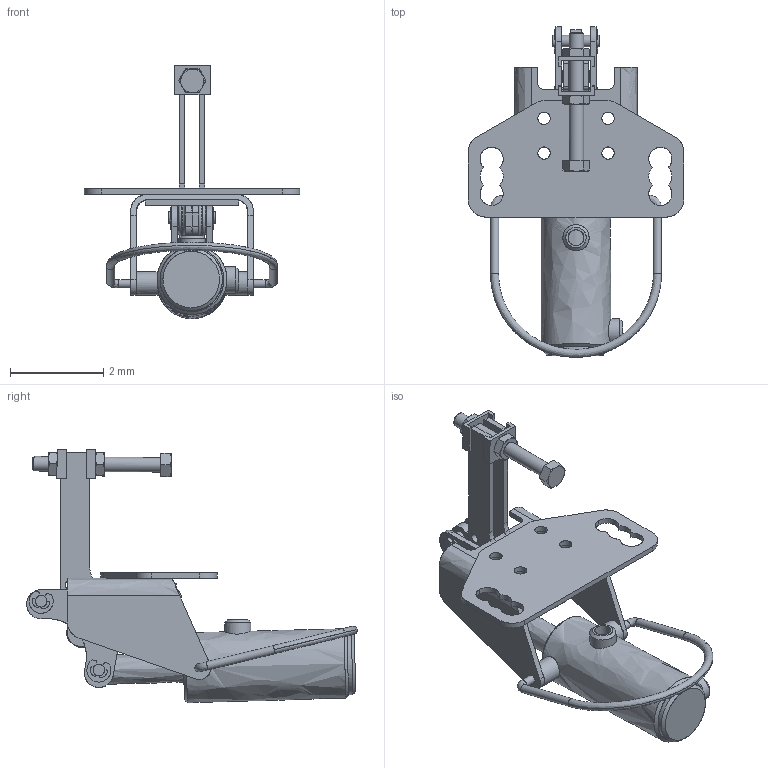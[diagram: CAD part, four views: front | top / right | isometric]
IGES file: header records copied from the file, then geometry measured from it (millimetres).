
Start section:  Autodesk DirectConnect version 7.0.27.0 ---- IGES version 5.3
Global section: file name: C:\Users\Nick\Desktop\AOV-201-FM\3D\AOV-201-FM.igs; native system: Autodesk DirectConnect 7.0.27.0; preprocessor: 7.0.27.0; author: Nick; organization: Unknown; date: 20150522.135254; units: millimetre
Bounding box: 4.62 x 7.1 x 5.44 mm (x, y, z)
Surface area: 163 mm2 (no closed solid volume)
Topology: 0 solids, 0 shells, 472 faces, 3667 edges, 3652 vertices
Faces by surface type: bspline 472
